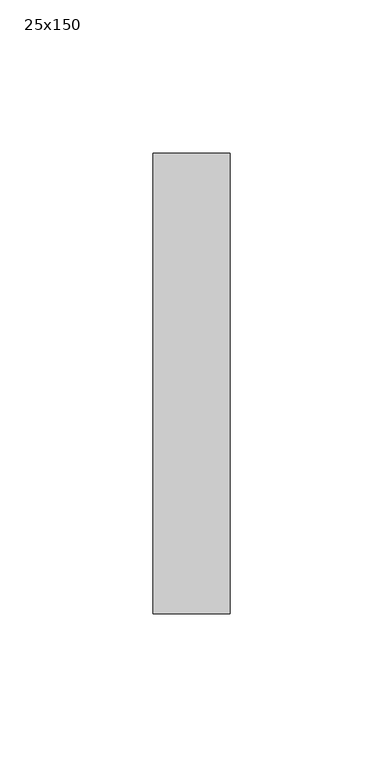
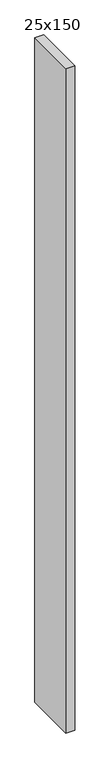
"""IFC4 building model written with IfcOpenShell, lengths in millimetres: member geometry, 長方形のマリオン : 25x150."""

from ifc_helpers import new_model, si_unit, frame, origin, place, context, project, spatial, polyline, outline, extrude, source, transform, mapped, element, save


def member_25x150_181524d6(model_context):
    return source(origin(), model_context, "Body", "SweptSolid", [
        extrude(outline(polyline([(0.0, 75.0), (0.0, -75.0), (-25.0, -75.0), (-25.0, 75.0), (0.0, 75.0)])), frame((0.0, 0.0, -1971.4285714), z_axis=(0.0, 0.0, 1.0), x_axis=(1.0, 0.0, 0.0)), (0.0, 0.0, 1.0), 1971.4285714),
    ])


if __name__ == "__main__":
    model = new_model("IFC4")
    model_context = context("Model", 3, world=origin())
    ifc_project = project(units=[si_unit("LENGTHUNIT", "METRE", prefix="MILLI")], contexts=[model_context])
    site = spatial("IfcSite", under=ifc_project)
    building = spatial("IfcBuilding", under=site)
    placement = place(None, origin())
    member_25x150_shape = member_25x150_181524d6(model_context)
    element("IfcMember", 1, ObjectType="長方形のマリオン : 25x150", at=placement, inside=building, context=model_context, shape_type="MappedRepresentation", body=[
        mapped(member_25x150_shape, transform((0.0, 0.0, 0.0), x_axis=(1.0, 0.0, 0.0), y_axis=(0.0, 1.0, 0.0), z_axis=(0.0, 0.0, 1.0))),
    ])
    save(model, "model.ifc")
